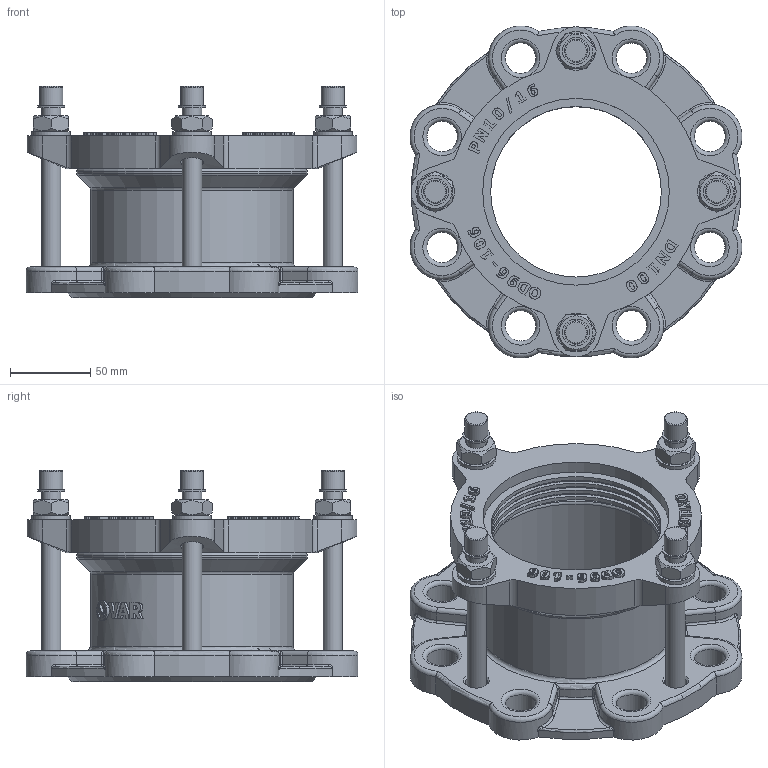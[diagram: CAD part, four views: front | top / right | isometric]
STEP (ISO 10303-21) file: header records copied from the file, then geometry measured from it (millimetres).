
FILE_DESCRIPTION(('STEP AP203'), '1');
FILE_NAME('Ôëàíöåâûé àäàïòåð', '', ('UNSPECIFIED'), ('UNSPECIFIED'), 'C3D Converter', 'C3D Toolkit', '');
FILE_SCHEMA(('CONFIG_CONTROL_DESIGN'));
Length unit declared in the file: millimetre
Assembly tree (19 placements, depth 2):
  (unnamed)
    (unnamed)
    (unnamed)  x4
    (unnamed)  x4
    (unnamed)  x4
    (unnamed)  x4
    (unnamed)
    (unnamed)
Bounding box: 206.24 x 206.24 x 131.2 mm (x, y, z)
Volume: 766746.6 mm3; surface area: 243521.1 mm2
Topology: 19 solids, 19 shells, 1028 faces, 2584 edges, 1606 vertices
Faces by surface type: extrusion 354, plane 313, cylinder 202, torus 71, cone 32, bspline 32, sphere 24
Full cylindrical faces by diameter (mm): 12 x12, 12.253 x1, 13 x4, 14 x8, 14.4 x4, 16.8 x4, 19 x8, 24 x4, 106 x5, 111 x3, 116 x2, 121 x1, 124 x1, 126 x1, 143.5 x1, 146 x2
Entity records: 39169 total; most frequent: CARTESIAN_POINT 14225, ORIENTED_EDGE 4438, DIRECTION 3281, EDGE_CURVE 2219, VERTEX_POINT 1450, VECTOR 1275, B_SPLINE_CURVE_WITH_KNOTS 1166, EDGE_LOOP 1081
